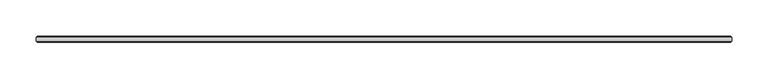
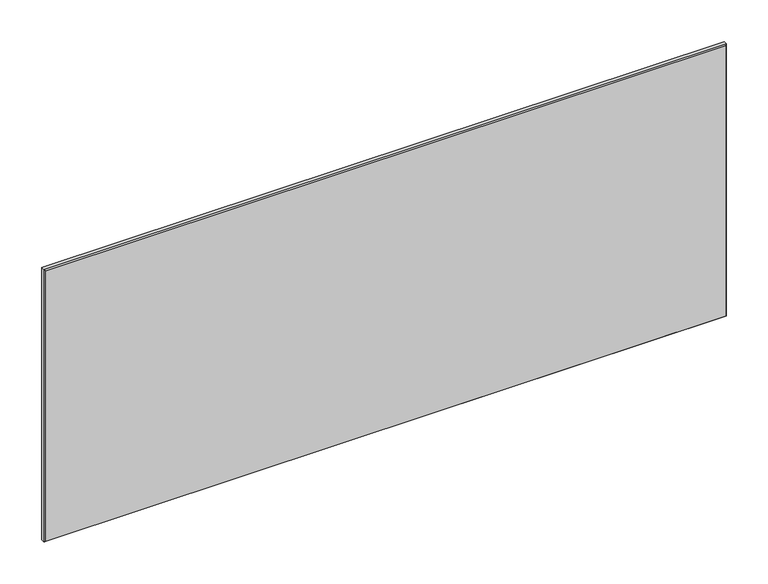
"""IFC4 building model written with IfcOpenShell, lengths in millimetres: plate geometry, 1-AMG-1-Панель одинарный витраж 8, 10 : Смещение 32 Толщина 8mm."""

import ifcopenshell
import ifcopenshell.guid

model = None  # the IFC model being written
_history = None  # IfcOwnerHistory: only IFC2X3 demands one
_inside = {}  # id of a spatial element -> (the spatial element, [elements in it])
_under = {}  # id of a project, library or spatial element -> (it, [spatial elements below it])
_declared = {}  # id of a project -> (the project, [libraries it declares])
_typed = {}  # id of a type object -> (the type object, [elements of that type])
_made_of = {}  # id of a material, layer set ... -> (it, [elements and type objects made of it])


def new_model(schema):
    """Start an empty IFC model of exactly this schema.

    Asked for "IFC4X3", IfcOpenShell would pick the latest addendum, in which some entities
    have other attributes; the version numbers below select the first issue.
    IFC2X3 requires an IfcOwnerHistory on every rooted entity: one is made here for all.
    """
    global model, _history
    if schema == "IFC4X3":
        model = ifcopenshell.file(schema_version=(4, 3, 0, 0))
    else:
        model = ifcopenshell.file(schema=schema)
    _inside.clear()
    _under.clear()
    _declared.clear()
    _typed.clear()
    _made_of.clear()
    _history = None
    if model.schema == "IFC2X3":
        org = make("IfcOrganization", Name="unknown")
        user = make(
            "IfcPersonAndOrganization",
            ThePerson=make("IfcPerson", FamilyName="unknown"),
            TheOrganization=org,
        )
        app = make(
            "IfcApplication",
            ApplicationDeveloper=org,
            Version="unknown",
            ApplicationFullName="unknown",
            ApplicationIdentifier="unknown",
        )
        _history = make(
            "IfcOwnerHistory",
            OwningUser=user,
            OwningApplication=app,
            ChangeAction="ADDED",
            CreationDate=0,
        )
    return model


def make(cls, **values):
    """One entity of the class cls with the attributes given. An attribute that is None is left unset."""
    return model.create_entity(
        cls, **{name: value for name, value in values.items() if value is not None}
    )


def rooted(cls, **values):
    """An entity with a GlobalId (a new one), such as an element, a storey or a relation."""
    return make(cls, GlobalId=ifcopenshell.guid.new(), OwnerHistory=_history, **values)


def si_unit(unit_type, name, prefix=None):
    """IfcSIUnit, for example si_unit("LENGTHUNIT", "METRE", prefix="MILLI")."""
    return make("IfcSIUnit", UnitType=unit_type, Prefix=prefix, Name=name)


def assignment(units):
    """IfcUnitAssignment: the units of a project."""
    return None if units is None else make("IfcUnitAssignment", Units=units)


def point(xyz):
    """IfcCartesianPoint."""
    return None if xyz is None else make("IfcCartesianPoint", Coordinates=xyz)


def direction(xyz):
    """IfcDirection."""
    return None if xyz is None else make("IfcDirection", DirectionRatios=xyz)


def frame(location, z_axis=None, x_axis=None):
    """IfcAxis2Placement3D, a coordinate frame: its origin and axes. An axis left out is left unset."""
    return make(
        "IfcAxis2Placement3D",
        Location=point(location),
        Axis=direction(z_axis),
        RefDirection=direction(x_axis),
    )


def origin():
    """The frame at (0, 0, 0) with its axes left unset."""
    return frame((0.0, 0.0, 0.0))


def place(relative_to, where):
    """IfcLocalPlacement: puts the frame where relative to a parent placement (None: the world)."""
    return make(
        "IfcLocalPlacement", PlacementRelTo=relative_to, RelativePlacement=where
    )


def context(
    kind, dimensions, precision=None, world=None, true_north=None, identifier=None
):
    """IfcGeometricRepresentationContext, for example the 3D "Model" context."""
    return make(
        "IfcGeometricRepresentationContext",
        ContextIdentifier=identifier,
        ContextType=kind,
        CoordinateSpaceDimension=dimensions,
        Precision=precision,
        WorldCoordinateSystem=world,
        TrueNorth=true_north,
    )


def project(units=None, contexts=None):
    """IfcProject with its units and contexts."""
    return rooted(
        "IfcProject",
        Name="project",
        RepresentationContexts=contexts,
        UnitsInContext=assignment(units),
    )


def spatial(cls, under=None, at=None, **own):
    """A site, building, storey or space (cls), placed at a placement, below another one or the project."""
    s = rooted(cls, ObjectPlacement=at, **own)
    if under is not None:
        _under.setdefault(under.id(), (under, []))[1].append(s)
    return s


def faces_of(points, faces, orient=None, outer=None):
    """IfcFace entities. A face is a list of loops; a loop is a list of indices into points, from 0.

    orient and outer hold one flag for each loop. By default every Orientation is true, the
    first loop of a face is its IfcFaceOuterBound and the others are IfcFaceBound.
    """
    made = []
    for i, loops in enumerate(faces):
        bounds = []
        for j, loop in enumerate(loops):
            is_outer = j == 0 if outer is None else outer[i][j]
            bounds.append(
                make(
                    "IfcFaceOuterBound" if is_outer else "IfcFaceBound",
                    Bound=make("IfcPolyLoop", Polygon=[points[k] for k in loop]),
                    Orientation=True if orient is None else orient[i][j],
                )
            )
        made.append(make("IfcFace", Bounds=bounds))
    return made


def faceted_brep(points, faces, orient=None, outer=None, voids=None):
    """IfcFacetedBrep: a solid bounded by flat faces; with voids (closed shells), ...WithVoids."""
    shared = [point(p) for p in points]
    hull = make("IfcClosedShell", CfsFaces=faces_of(shared, faces, orient, outer))
    if voids is None:
        return make("IfcFacetedBrep", Outer=hull)
    return make(
        "IfcFacetedBrepWithVoids",
        Outer=hull,
        Voids=[
            make(cls, CfsFaces=faces_of(shared, fs, o, b)) for cls, fs, o, b in voids
        ],
    )


def shape(context_of_items, identifier, shape_type, items):
    """IfcShapeRepresentation: the items that make up one representation, for example the "Body"."""
    return make(
        "IfcShapeRepresentation",
        ContextOfItems=context_of_items,
        RepresentationIdentifier=identifier,
        RepresentationType=shape_type,
        Items=items,
    )


def source(mapping_origin, context_of_items, identifier, shape_type, items):
    """IfcRepresentationMap: a shape defined once, which mapped items show again and again."""
    return make(
        "IfcRepresentationMap",
        MappingOrigin=mapping_origin,
        MappedRepresentation=shape(context_of_items, identifier, shape_type, items),
    )


def transform(
    local_origin,
    x_axis=None,
    y_axis=None,
    z_axis=None,
    scale=None,
    scale2=None,
    scale3=None,
    uniform=True,
):
    """IfcCartesianTransformationOperator3D, or its non-uniform kind. x_axis, y_axis, z_axis: its Axis1, 2, 3."""
    if uniform:
        return make(
            "IfcCartesianTransformationOperator3D",
            Axis1=direction(x_axis),
            Axis2=direction(y_axis),
            LocalOrigin=point(local_origin),
            Scale=scale,
            Axis3=direction(z_axis),
        )
    return make(
        "IfcCartesianTransformationOperator3DnonUniform",
        Axis1=direction(x_axis),
        Axis2=direction(y_axis),
        LocalOrigin=point(local_origin),
        Scale=scale,
        Axis3=direction(z_axis),
        Scale2=scale2,
        Scale3=scale3,
    )


def mapped(mapping_source, mapping_target):
    """IfcMappedItem: shows the shape of a source again, moved by a transform."""
    return make(
        "IfcMappedItem", MappingSource=mapping_source, MappingTarget=mapping_target
    )


def made_of(thing, what):
    """Note that an element or type object is made of a material, layer set ...; save() writes the relation."""
    if what is not None:
        _made_of.setdefault(what.id(), (what, []))[1].append(thing)
    return thing


def element(
    cls,
    number,
    at=None,
    inside=None,
    cuts=None,
    type_object=None,
    material=None,
    context=None,
    identifier="Body",
    shape_type=None,
    held_by="IfcProductDefinitionShape",
    body=None,
    shapes=None,
    **own,
):
    """One element of the class cls, such as IfcWall. Its Tag is "e" and its number.

    at: its placement. inside: the storey or other place that contains it. cuts: it is an
    opening in that element (IfcRelVoidsElement). A single representation is given by context,
    identifier, shape_type and body (its items); several are given by shapes. held_by: the class
    of the entity that holds the representations. save() writes the other relations.
    """
    e = rooted(cls, Tag="e%d" % number, ObjectPlacement=at, **own)
    if body is not None:
        shapes = [shape(context, identifier, shape_type, body)]
    if shapes is not None:
        e.Representation = make(held_by, Representations=shapes)
    if inside is not None:
        _inside.setdefault(inside.id(), (inside, []))[1].append(e)
    if cuts is not None:
        rooted(
            "IfcRelVoidsElement", RelatingBuildingElement=cuts, RelatedOpeningElement=e
        )
    if type_object is not None:
        _typed.setdefault(type_object.id(), (type_object, []))[1].append(e)
    return made_of(e, material)


def aggregate(whole, parts):
    """IfcRelAggregates: a whole, such as a stair, and the parts it consists of."""
    return rooted("IfcRelAggregates", RelatingObject=whole, RelatedObjects=parts)


def save(model, path):
    """Write the relations noted so far, then the file.

    IfcRelAggregates (storeys below a building ...), IfcRelContainedInSpatialStructure (elements
    in a storey), IfcRelDefinesByType, IfcRelAssociatesMaterial and IfcRelDeclares: one each for
    every whole, place, type object, material and project.
    """
    for whole, parts in _under.values():
        aggregate(whole, parts)
    for where, things in _inside.values():
        rooted(
            "IfcRelContainedInSpatialStructure",
            RelatedElements=things,
            RelatingStructure=where,
        )
    for kind, things in _typed.values():
        rooted("IfcRelDefinesByType", RelatedObjects=things, RelatingType=kind)
    for what, things in _made_of.values():
        rooted("IfcRelAssociatesMaterial", RelatedObjects=things, RelatingMaterial=what)
    for by, libraries in _declared.values():
        rooted("IfcRelDeclares", RelatingContext=by, RelatedDefinitions=libraries)
    model.write(path)


def plate_3c743ba8(model_context):
    return source(origin(), model_context, "Body", "Brep", [
        faceted_brep([(478.5011719, -29.5038347, 397.0023438), (-478.5011719, -29.5038347, 397.0023438), (-478.5011719, -34.4961653, 397.0023438), (478.5011719, -34.4961653, 397.0023438), (478.5011719, -34.5039422, -7.0), (-478.5011719, -34.5039422, -7.0), (-478.5011719, -29.5038347, -7.0), (478.5011719, -29.5038347, -7.0), (-476.9973372, -36.0, 395.4985091), (-476.9973372, -36.0, -5.5039422), (476.9973372, -36.0, -5.5039422), (476.9973372, -36.0, 395.4985091), (476.9973372, -28.0, 395.4985091), (476.9973372, -28.0, -5.4961653), (-476.9973372, -28.0, -5.4961653), (-476.9973372, -28.0, 395.4985091)], [[[0, 1, 2, 3]], [[4, 5, 6, 7]], [[8, 9, 10, 11]], [[1, 6, 5, 2]], [[12, 13, 14, 15]], [[3, 4, 7, 0]], [[3, 11, 10, 4]], [[7, 13, 12, 0]], [[5, 9, 8, 2]], [[1, 15, 14, 6]], [[0, 12, 15, 1]], [[2, 8, 11, 3]], [[6, 14, 13, 7]], [[4, 10, 9, 5]]]),
    ])


if __name__ == "__main__":
    model = new_model("IFC4")
    model_context = context("Model", 3, world=origin())
    ifc_project = project(units=[si_unit("LENGTHUNIT", "METRE", prefix="MILLI")], contexts=[model_context])
    site = spatial("IfcSite", under=ifc_project)
    building = spatial("IfcBuilding", under=site)
    placement = place(None, origin())
    plate_shape = plate_3c743ba8(model_context)
    element("IfcPlate", 1, ObjectType="1-AMG-1-Панель одинарный витраж 8, 10 : Смещение 32 Толщина 8mm", at=placement, inside=building, context=model_context, shape_type="MappedRepresentation", body=[
        mapped(plate_shape, transform((0.0, 0.0, 0.0), x_axis=(1.0, 0.0, 0.0), y_axis=(0.0, 1.0, 0.0), z_axis=(0.0, 0.0, 1.0))),
    ])
    save(model, "model.ifc")
